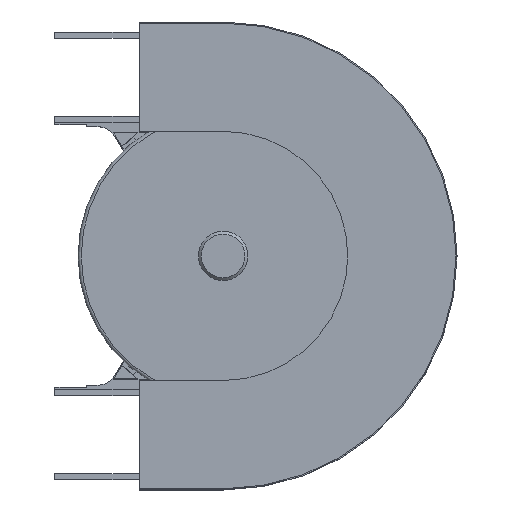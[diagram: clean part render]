
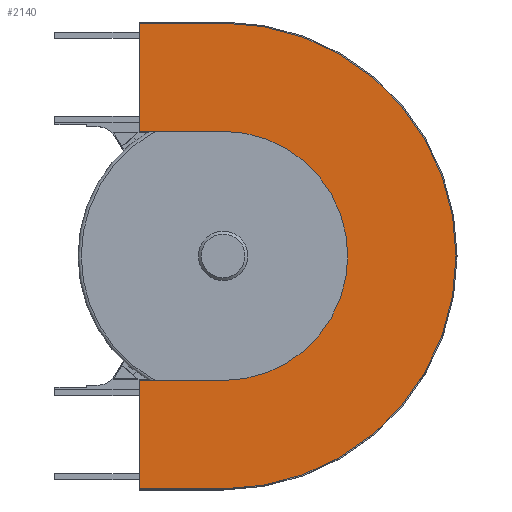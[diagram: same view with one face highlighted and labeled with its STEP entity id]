
A CAD part, top view. The second image highlights one B-rep face of the part: STEP entity #2140.
In plain terms, the highlighted planar face has unit normal (0, 0, -1).
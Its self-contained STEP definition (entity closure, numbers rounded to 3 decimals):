
#103=CIRCLE('',#2318,118.5);
#104=CIRCLE('',#2320,221.5);
#239=FACE_OUTER_BOUND('',#372,.T.);
#372=EDGE_LOOP('',(#1874,#1875,#1876,#1877,#1878,#1879,#1880,#1881));
#595=LINE('',#3439,#846);
#597=LINE('',#3445,#848);
#604=LINE('',#3466,#855);
#609=LINE('',#3475,#860);
#610=LINE('',#3477,#861);
#611=LINE('',#3478,#862);
#846=VECTOR('',#2832,10.);
#848=VECTOR('',#2836,10.);
#855=VECTOR('',#2857,10.);
#860=VECTOR('',#2866,10.);
#861=VECTOR('',#2869,10.);
#862=VECTOR('',#2870,10.);
#1044=VERTEX_POINT('',#3433);
#1046=VERTEX_POINT('',#3437);
#1047=VERTEX_POINT('',#3441);
#1049=VERTEX_POINT('',#3444);
#1052=VERTEX_POINT('',#3451);
#1053=VERTEX_POINT('',#3456);
#1055=VERTEX_POINT('',#3462);
#1058=VERTEX_POINT('',#3473);
#1319=EDGE_CURVE('',#1044,#1046,#595,.T.);
#1321=EDGE_CURVE('',#1047,#1049,#597,.T.);
#1326=EDGE_CURVE('',#1052,#1044,#103,.T.);
#1328=EDGE_CURVE('',#1053,#1047,#104,.T.);
#1332=EDGE_CURVE('',#1055,#1052,#604,.T.);
#1337=EDGE_CURVE('',#1058,#1053,#609,.T.);
#1338=EDGE_CURVE('',#1058,#1055,#610,.T.);
#1339=EDGE_CURVE('',#1046,#1049,#611,.T.);
#1874=ORIENTED_EDGE('',*,*,#1338,.T.);
#1875=ORIENTED_EDGE('',*,*,#1332,.T.);
#1876=ORIENTED_EDGE('',*,*,#1326,.T.);
#1877=ORIENTED_EDGE('',*,*,#1319,.T.);
#1878=ORIENTED_EDGE('',*,*,#1339,.T.);
#1879=ORIENTED_EDGE('',*,*,#1321,.F.);
#1880=ORIENTED_EDGE('',*,*,#1328,.F.);
#1881=ORIENTED_EDGE('',*,*,#1337,.F.);
#2019=PLANE('',#2325);
#2140=ADVANCED_FACE('',(#239),#2019,.F.);
#2318=AXIS2_PLACEMENT_3D('',#3454,#2844,#2845);
#2320=AXIS2_PLACEMENT_3D('',#3459,#2849,#2850);
#2325=AXIS2_PLACEMENT_3D('',#3476,#2867,#2868);
#2832=DIRECTION('',(-1.,0.,0.));
#2836=DIRECTION('',(-1.,0.,0.));
#2844=DIRECTION('center_axis',(0.,0.,1.));
#2845=DIRECTION('ref_axis',(0.,-1.,0.));
#2849=DIRECTION('center_axis',(0.,0.,1.));
#2850=DIRECTION('ref_axis',(0.,-1.,0.));
#2857=DIRECTION('',(1.,0.,0.));
#2866=DIRECTION('',(1.,0.,0.));
#2867=DIRECTION('center_axis',(0.,0.,1.));
#2868=DIRECTION('ref_axis',(0.,-1.,0.));
#2869=DIRECTION('',(0.,1.,0.));
#2870=DIRECTION('',(0.,1.,0.));
#3433=CARTESIAN_POINT('',(80.,288.5,43.));
#3437=CARTESIAN_POINT('',(0.,288.5,43.));
#3439=CARTESIAN_POINT('',(80.,288.5,43.));
#3441=CARTESIAN_POINT('',(80.,391.5,43.));
#3444=CARTESIAN_POINT('',(0.,391.5,43.));
#3445=CARTESIAN_POINT('',(80.,391.5,43.));
#3451=CARTESIAN_POINT('',(80.,51.5,43.));
#3454=CARTESIAN_POINT('Origin',(80.,170.,43.));
#3456=CARTESIAN_POINT('',(80.,-51.5,43.));
#3459=CARTESIAN_POINT('Origin',(80.,170.,43.));
#3462=CARTESIAN_POINT('',(0.,51.5,43.));
#3466=CARTESIAN_POINT('',(0.,51.5,43.));
#3473=CARTESIAN_POINT('',(0.,-51.5,43.));
#3475=CARTESIAN_POINT('',(0.,-51.5,43.));
#3476=CARTESIAN_POINT('Origin',(0.,51.5,43.));
#3477=CARTESIAN_POINT('',(0.,-51.5,43.));
#3478=CARTESIAN_POINT('',(0.,391.5,43.));
